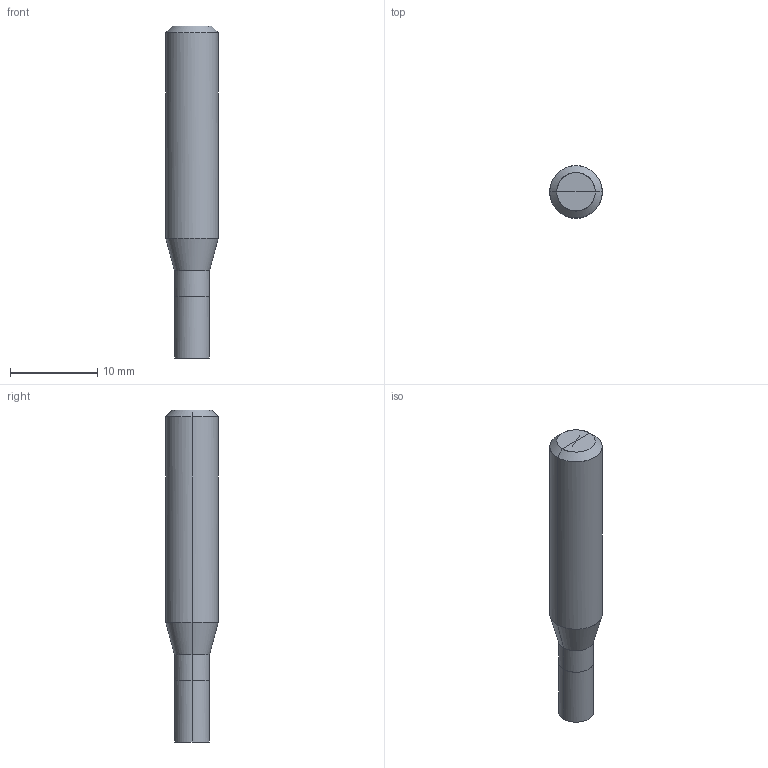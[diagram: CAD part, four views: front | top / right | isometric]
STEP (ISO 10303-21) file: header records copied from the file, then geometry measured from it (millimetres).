
FILE_DESCRIPTION(/* description */ (''),/* implementation_level */ '2;1');
FILE_NAME(/*name*/ '3152-4.0C',/*time_stamp*/'2021-6-18T10:59:58',/*author*/ ('ISBE GmbH'),/*organization*/ ('ISBE GmbH'),/*preprocessor_version*/ 'STEP IO v1.0',/*originating_system*/ '',/*authorisation*/ '');
FILE_SCHEMA (('AUTOMOTIVE_DESIGN'));
Length unit declared in the file: millimetre
Products named in the file (1): Document
Bounding box: 6 x 6 x 38 mm (x, y, z)
Surface area: 701.1 mm2 (no closed solid volume)
Topology: 0 solids, 18 shells, 18 faces, 75 edges, 70 vertices
Faces by surface type: bspline 18
Entity records: 800 total; most frequent: CARTESIAN_POINT 471, VERTEX_POINT 64, EDGE_CURVE 64, ORIENTED_EDGE 64, EDGE_LOOP 18, FACE_OUTER_BOUND 18, ADVANCED_FACE 18, DIRECTION 16
